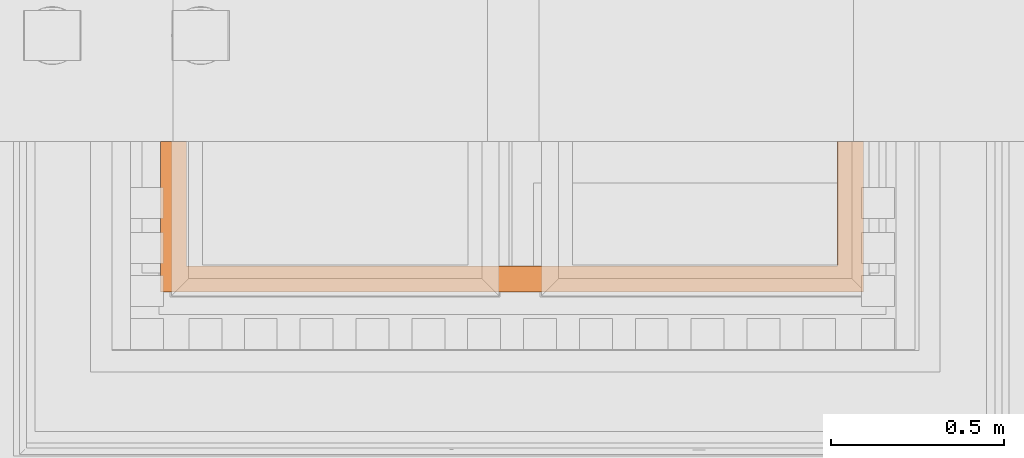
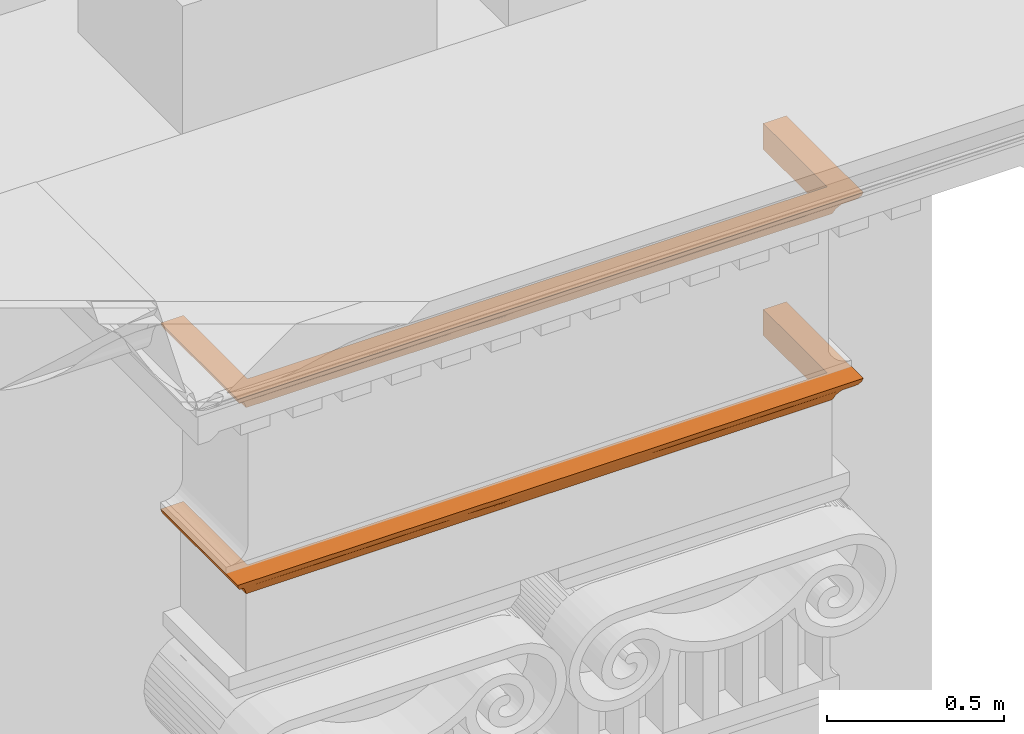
# One storey, part 42 of 44: 2 proxies.
"""IFC2X3 building model written with IfcOpenShell, lengths in metres."""

from ifc_helpers import new_model, entity, si_unit, converted_unit, derived_unit, direction, frame, origin, place, context, subcontext, project, spatial, faceted_brep, material, element, save


model = new_model("IFC2X3")

# Units and contexts
model_context = context("Model", 3, precision=1e-05, world=origin(), true_north=direction((6.12303176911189e-17, 1.0)))
body_context = subcontext(model_context, "Body", "Model", "MODEL_VIEW")
ifc_project = project(units=[si_unit("LENGTHUNIT", "METRE"), si_unit("AREAUNIT", "SQUARE_METRE"), si_unit("VOLUMEUNIT", "CUBIC_METRE"), converted_unit("PLANEANGLEUNIT", "DEGREE", entity("IfcRatioMeasure", 0.0174532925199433), si_unit("PLANEANGLEUNIT", "RADIAN"), dimensions=[0, 0, 0, 0, 0, 0, 0]), si_unit("MASSUNIT", "GRAM", prefix="KILO"), derived_unit("MASSDENSITYUNIT", [(si_unit("MASSUNIT", "GRAM", prefix="KILO"), 1), (si_unit("LENGTHUNIT", "METRE"), -3)]), si_unit("TIMEUNIT", "SECOND"), si_unit("FREQUENCYUNIT", "HERTZ"), si_unit("THERMODYNAMICTEMPERATUREUNIT", "DEGREE_CELSIUS"), derived_unit("THERMALTRANSMITTANCEUNIT", [(si_unit("MASSUNIT", "GRAM", prefix="KILO"), 1), (si_unit("THERMODYNAMICTEMPERATUREUNIT", "KELVIN"), -1), (si_unit("TIMEUNIT", "SECOND"), -3)]), derived_unit("VOLUMETRICFLOWRATEUNIT", [(si_unit("LENGTHUNIT", "METRE"), 3), (si_unit("TIMEUNIT", "SECOND"), -1)]), si_unit("ELECTRICCURRENTUNIT", "AMPERE"), si_unit("ELECTRICVOLTAGEUNIT", "VOLT"), si_unit("POWERUNIT", "WATT"), si_unit("FORCEUNIT", "NEWTON", prefix="KILO"), si_unit("ILLUMINANCEUNIT", "LUX"), si_unit("LUMINOUSFLUXUNIT", "LUMEN"), si_unit("LUMINOUSINTENSITYUNIT", "CANDELA"), derived_unit("USERDEFINED", [(si_unit("MASSUNIT", "GRAM", prefix="KILO"), -1), (si_unit("LENGTHUNIT", "METRE"), -2), (si_unit("TIMEUNIT", "SECOND"), 3), (si_unit("LUMINOUSFLUXUNIT", "LUMEN"), 1)]), derived_unit("LINEARVELOCITYUNIT", [(si_unit("LENGTHUNIT", "METRE"), 1), (si_unit("TIMEUNIT", "SECOND"), -1)]), si_unit("PRESSUREUNIT", "PASCAL"), derived_unit("USERDEFINED", [(si_unit("LENGTHUNIT", "METRE"), -2), (si_unit("MASSUNIT", "GRAM", prefix="KILO"), 1), (si_unit("TIMEUNIT", "SECOND"), -2)])], contexts=[model_context])

# Site, building, storey
site_placement = place(None, origin())
site = spatial("IfcSite", under=ifc_project, at=site_placement, Name="Default", CompositionType="ELEMENT")
building_placement = place(site_placement, origin())
building = spatial("IfcBuilding", under=site, at=building_placement, CompositionType="ELEMENT")
storey_placement = place(building_placement, origin())
storey = spatial("IfcBuildingStorey", under=building, at=storey_placement, Name="Livello 1", CompositionType="ELEMENT", Elevation=0.0)

# Proxies
ifc_material = material(Name="Piperno")
proxy_1_placement = place(storey_placement, frame((9.3996834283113, 0.826731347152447, 21.9731571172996)))
element("IfcBuildingElementProxy", 1, at=proxy_1_placement, inside=storey, material=ifc_material, Name="Stratigrafia", context=body_context, shape_type="Brep", body=[
    faceted_brep([(1.962612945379, 0.436641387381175, 0.0912885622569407), (2.037612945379, 0.436641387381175, 0.0912885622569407), (2.03387347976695, 0.436641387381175, 0.0791148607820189), (2.02722756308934, 0.436641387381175, 0.0682514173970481), (2.01809170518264, 0.436641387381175, 0.0593790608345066), (2.007038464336, 0.436641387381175, 0.0530538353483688), (1.99242845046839, 0.436641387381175, 0.038323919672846), (1.98112304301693, 0.436641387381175, 0.020928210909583), (1.97359573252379, 0.436641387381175, 0.0015952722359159), (1.962612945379, 0.436641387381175, 0.0015952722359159), (0.0467797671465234, 0.436641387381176, 0.038323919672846), (0.0321697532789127, 0.436641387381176, 0.0530538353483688), (0.0211165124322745, 0.436641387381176, 0.0593790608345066), (0.0119806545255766, 0.436641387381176, 0.0682514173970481), (0.00533473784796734, 0.436641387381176, 0.0791148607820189), (0.00159527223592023, 0.436641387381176, 0.0912885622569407), (0.0765952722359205, 0.436641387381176, 0.0912885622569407), (0.0765952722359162, 0.436641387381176, 0.0015952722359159), (0.0656124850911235, 0.436641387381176, 0.0015952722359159), (0.0580851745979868, 0.436641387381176, 0.020928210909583), (2.007038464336, 0.207952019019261, 0.0530538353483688), (2.00703846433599, 0.187600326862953, 0.0530538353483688), (2.007038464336, 0.032169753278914, 0.0530538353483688), (1.99242845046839, 0.0467797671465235, 0.038323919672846), (1.98112304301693, 0.0580851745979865, 0.020928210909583), (1.97359573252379, 0.0656124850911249, 0.0015952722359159), (1.62202667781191, 0.0656124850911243, 0.0015952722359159), (1.27046453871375, 0.0656124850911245, 0.0015952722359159), (1.0196006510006, 0.0656124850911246, 0.0015952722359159), (0.768736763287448, 0.0656124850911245, 0.0015952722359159), (0.417174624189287, 0.0656124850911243, 0.0015952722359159), (0.0656124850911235, 0.065612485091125, 0.0015952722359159), (0.0765952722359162, 0.0765952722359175, 0.0015952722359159), (1.96261294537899, 0.0765952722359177, 0.0015952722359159), (1.962612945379, 0.0765952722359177, 0.0912885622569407), (0.00159527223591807, 0.250636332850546, 0.0912885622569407), (0.00159527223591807, 0.00159527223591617, 0.0912885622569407), (0.250633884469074, 0.00159527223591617, 0.0912885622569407), (0.499675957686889, 0.00159527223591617, 0.0912885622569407), (0.759640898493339, 0.00159527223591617, 0.0912885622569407), (1.01960237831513, 0.00159527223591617, 0.0912885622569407), (1.27956731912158, 0.00159527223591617, 0.0912885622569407), (1.53953225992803, 0.00159527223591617, 0.0912885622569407), (1.78857087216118, 0.00159527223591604, 0.0912885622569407), (2.037612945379, 0.00159527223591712, 0.0912885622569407), (2.03761294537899, 0.250636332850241, 0.0912885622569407), (0.0765952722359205, 0.0765952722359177, 0.0912885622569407), (2.03387347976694, 0.00533473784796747, 0.0791148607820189), (2.03089181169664, 0.224311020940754, 0.0734743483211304), (2.0350515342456, 0.266552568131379, 0.0819540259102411), (2.01809170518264, 0.0211165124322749, 0.0593790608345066), (2.01517555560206, 0.262980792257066, 0.0573396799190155), (2.02293837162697, 0.232788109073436, 0.0635282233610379), (2.02722756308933, 0.0119806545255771, 0.0682514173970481), (0.0467797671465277, 0.0467797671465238, 0.038323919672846), (0.0580851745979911, 0.0580851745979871, 0.020928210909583), (0.367866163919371, 0.0521366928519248, 0.0310412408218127), (1.67134205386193, 0.0521366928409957, 0.031041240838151), (0.383732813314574, 0.0321697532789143, 0.0530538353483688), (1.65547540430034, 0.0321697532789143, 0.0530538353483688), (1.45159991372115, 0.0460051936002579, 0.0392723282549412), (0.592959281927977, 0.0590390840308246, 0.019018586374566), (1.17857156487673, 0.049325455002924, 0.0350321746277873), (1.33754250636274, 0.0321697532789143, 0.0530538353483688), (1.26864147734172, 0.0321697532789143, 0.0530538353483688), (1.02833349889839, 0.0321697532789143, 0.0530538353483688), (1.01960410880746, 0.0321697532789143, 0.0530538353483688), (0.860636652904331, 0.0522964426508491, 0.0308017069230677), (0.779291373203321, 0.0321697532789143, 0.0530538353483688), (0.701665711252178, 0.0321697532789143, 0.0530538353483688), (1.75799633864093, 0.0321697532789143, 0.0530538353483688), (0.281211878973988, 0.0321697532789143, 0.0530538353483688), (0.032169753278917, 0.0321697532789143, 0.0530538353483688), (0.604066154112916, 0.0469191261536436, 0.0381507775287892), (0.530254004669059, 0.0321697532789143, 0.0530538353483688), (1.42275632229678, 0.0580212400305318, 0.021052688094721), (1.14503538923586, 0.0596767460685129, 0.0176830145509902), (1.50895421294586, 0.0321697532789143, 0.0530538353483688), (0.546115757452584, 0.00416868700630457, 0.081922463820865), (0.375156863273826, 0.00622593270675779, 0.0772409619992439), (0.585577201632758, 0.00852306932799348, 0.0731394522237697), (1.85863883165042, 0.00817935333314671, 0.0736996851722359), (0.180569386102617, 0.00817935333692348, 0.0736996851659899), (0.19515450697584, 0.0146448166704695, 0.065179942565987), (0.391043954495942, 0.0157075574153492, 0.0640828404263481), (0.267640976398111, 0.0224796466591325, 0.0583878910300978), (1.77156724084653, 0.0224796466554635, 0.058387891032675), (0.00533473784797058, 0.00533473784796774, 0.0791148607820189), (0.0119806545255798, 0.0119806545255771, 0.0682514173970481), (1.59272306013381, 0.0227911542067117, 0.058170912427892), (1.66405135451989, 0.00622593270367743, 0.0772409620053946), (0.960630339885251, 0.00510136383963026, 0.0796404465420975), (1.24637643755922, 0.00976144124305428, 0.0712452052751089), (1.4095491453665, 0.00485209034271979, 0.0802202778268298), (1.1986408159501, 0.0044919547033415, 0.0810951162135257), (0.915845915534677, 0.0196818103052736, 0.0604998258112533), (0.809439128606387, 0.0097344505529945, 0.0712845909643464), (0.639048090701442, 0.016007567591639, 0.0637847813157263), (1.84405371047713, 0.0146448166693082, 0.0651799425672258), (1.47132453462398, 0.010690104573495, 0.0699361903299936), (1.43760442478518, 0.0189403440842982, 0.0611124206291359), (0.729067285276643, 0.00473336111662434, 0.0805036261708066), (0.173994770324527, 0.00391099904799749, 0.0826144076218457), (0.463092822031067, 0.023354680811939, 0.0577870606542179), (1.02783945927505, 0.0108170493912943, 0.0697638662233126), (1.21750503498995, 0.0210338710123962, 0.0594414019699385), (1.86521344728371, 0.00391099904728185, 0.0826144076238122), (1.64816426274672, 0.0157075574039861, 0.0640828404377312), (0.661373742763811, 0.0244211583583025, 0.0570902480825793), (0.0211165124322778, 0.021116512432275, 0.0593790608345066), (0.032169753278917, 0.187600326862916, 0.0530538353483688), (0.032169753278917, 0.207952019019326, 0.0530538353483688), (0.00831640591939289, 0.22431102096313, 0.0734743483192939), (0.00403364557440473, 0.180264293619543, 0.0822812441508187), (0.0236134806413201, 0.19090797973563, 0.0576144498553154), (0.0162698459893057, 0.232788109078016, 0.0635282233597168)], [[[0, 1, 2, 3, 4, 5, 6, 7, 8, 9]], [[10, 11, 12, 13, 14, 15, 16, 17, 18, 19]], [[6, 5, 20, 21, 22, 23]], [[23, 24, 7, 6]], [[25, 8, 7, 24]], [[9, 8, 25, 26, 27, 28, 29, 30, 31, 18, 17, 32, 33]], [[0, 9, 33, 34]], [[16, 15, 35, 36, 37, 38, 39, 40, 41, 42, 43, 44, 45, 1, 0, 34, 46]], [[47, 48, 49]], [[50, 51, 52]], [[49, 48, 2]], [[45, 44, 49, 1]], [[44, 47, 49]], [[52, 53, 50]], [[2, 48, 3]], [[51, 21, 20, 5]], [[3, 48, 52]], [[1, 49, 2]], [[21, 51, 50]], [[5, 4, 51]], [[50, 22, 21]], [[53, 52, 48]], [[52, 51, 4]], [[52, 4, 3]], [[47, 53, 48]], [[54, 55, 56]], [[26, 25, 24]], [[30, 55, 31]], [[57, 24, 23]], [[58, 54, 56]], [[23, 59, 57]], [[59, 60, 57]], [[61, 56, 30]], [[62, 63, 64, 65, 66]], [[67, 66, 68, 69]], [[67, 62, 66]], [[23, 22, 70, 59]], [[54, 58, 71, 72]], [[73, 69, 74, 58]], [[56, 55, 30]], [[57, 26, 24]], [[27, 26, 75]], [[27, 76, 28]], [[67, 73, 61]], [[30, 29, 61]], [[76, 27, 75]], [[57, 60, 75]], [[62, 67, 76]], [[28, 76, 67]], [[28, 67, 29]], [[62, 60, 63]], [[76, 75, 62]], [[57, 75, 26]], [[75, 60, 62]], [[60, 59, 77, 63]], [[56, 61, 73]], [[61, 29, 67]], [[56, 73, 58]], [[69, 73, 67]], [[34, 33, 32, 46]], [[78, 79, 80]], [[53, 47, 81]], [[82, 83, 84]], [[72, 71, 85]], [[86, 70, 22]], [[87, 88, 82]], [[70, 86, 89]], [[38, 37, 79]], [[42, 90, 43]], [[91, 40, 39]], [[92, 93, 94]], [[95, 96, 97]], [[86, 50, 98]], [[53, 81, 98]], [[93, 99, 90]], [[92, 100, 99]], [[101, 80, 96]], [[82, 102, 87]], [[85, 84, 83]], [[84, 79, 82]], [[36, 87, 102]], [[97, 80, 84]], [[103, 84, 85]], [[92, 104, 105]], [[81, 106, 90]], [[44, 43, 106]], [[36, 102, 37]], [[98, 81, 107]], [[99, 93, 92]], [[108, 74, 69, 68]], [[82, 88, 83]], [[71, 103, 85]], [[50, 86, 22]], [[102, 79, 37]], [[88, 109, 83]], [[109, 72, 85]], [[109, 85, 83]], [[103, 71, 58, 74]], [[97, 96, 80]], [[103, 97, 84]], [[94, 104, 92]], [[103, 108, 97]], [[95, 68, 66, 65]], [[95, 97, 108]], [[95, 65, 105]], [[100, 64, 63, 77]], [[99, 100, 107]], [[39, 101, 91]], [[84, 80, 79]], [[101, 96, 91]], [[80, 101, 78]], [[78, 39, 38]], [[104, 91, 96]], [[41, 94, 93]], [[41, 93, 42]], [[91, 94, 40]], [[90, 42, 93]], [[96, 95, 104]], [[105, 104, 95]], [[100, 92, 105]], [[90, 99, 107]], [[100, 105, 64]], [[107, 89, 86]], [[106, 81, 47]], [[107, 81, 90]], [[86, 98, 107]], [[50, 53, 98]], [[107, 100, 89]], [[39, 78, 101]], [[79, 78, 38]], [[79, 102, 82]], [[44, 106, 47]], [[90, 106, 43]], [[100, 77, 89]], [[89, 77, 59, 70]], [[40, 94, 41]], [[104, 94, 91]], [[74, 108, 103]], [[95, 108, 68]], [[105, 65, 64]], [[54, 72, 110, 111, 11, 10]], [[10, 19, 55, 54]], [[19, 18, 31, 55]], [[46, 32, 17, 16]], [[14, 112, 113]], [[12, 114, 115]], [[35, 15, 14]], [[36, 35, 113]], [[13, 12, 115]], [[14, 13, 112]], [[112, 87, 113]], [[72, 114, 11, 111, 110]], [[114, 72, 109]], [[112, 13, 115]], [[36, 113, 87]], [[114, 12, 11]], [[88, 112, 115]], [[88, 115, 109]], [[109, 115, 114]], [[14, 113, 35]], [[87, 112, 88]]]),
])
proxy_2_placement = place(storey_placement, frame((9.3996834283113, 0.826731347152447, 22.6131571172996)))
element("IfcBuildingElementProxy", 2, at=proxy_2_placement, inside=storey, material=ifc_material, Name="Stratigrafia", context=body_context, shape_type="Brep", body=[
    faceted_brep([(1.962612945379, 0.436641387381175, 0.0912885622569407), (2.037612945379, 0.436641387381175, 0.0912885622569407), (2.03387347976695, 0.436641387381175, 0.0791148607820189), (2.02722756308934, 0.436641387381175, 0.0682514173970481), (2.01809170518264, 0.436641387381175, 0.0593790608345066), (2.007038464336, 0.436641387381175, 0.0530538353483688), (1.99242845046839, 0.436641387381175, 0.038323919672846), (1.98112304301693, 0.436641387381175, 0.020928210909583), (1.97359573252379, 0.436641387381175, 0.0015952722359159), (1.962612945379, 0.436641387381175, 0.0015952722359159), (0.0467797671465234, 0.436641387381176, 0.038323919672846), (0.0321697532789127, 0.436641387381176, 0.0530538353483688), (0.0211165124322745, 0.436641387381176, 0.0593790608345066), (0.0119806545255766, 0.436641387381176, 0.0682514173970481), (0.00533473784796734, 0.436641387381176, 0.0791148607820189), (0.00159527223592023, 0.436641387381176, 0.0912885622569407), (0.0765952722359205, 0.436641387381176, 0.0912885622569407), (0.0765952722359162, 0.436641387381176, 0.0015952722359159), (0.0656124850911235, 0.436641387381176, 0.0015952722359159), (0.0580851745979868, 0.436641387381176, 0.020928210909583), (2.007038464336, 0.207952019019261, 0.0530538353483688), (2.007038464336, 0.187600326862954, 0.0530538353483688), (2.007038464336, 0.0321697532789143, 0.0530538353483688), (1.99242845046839, 0.0467797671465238, 0.038323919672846), (1.98112304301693, 0.0580851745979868, 0.020928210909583), (1.97359573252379, 0.0656124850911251, 0.0015952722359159), (1.62202667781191, 0.0656124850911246, 0.0015952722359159), (1.27046453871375, 0.0656124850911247, 0.0015952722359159), (1.0196006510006, 0.0656124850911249, 0.0015952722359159), (0.768736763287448, 0.0656124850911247, 0.0015952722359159), (0.417174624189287, 0.0656124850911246, 0.0015952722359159), (0.0656124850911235, 0.0656124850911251, 0.0015952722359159), (0.0765952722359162, 0.0765952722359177, 0.0015952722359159), (1.96261294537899, 0.0765952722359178, 0.0015952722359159), (1.962612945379, 0.0765952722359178, 0.0912885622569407), (0.00159527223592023, 0.250636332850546, 0.0912885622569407), (0.00159527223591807, 0.00159527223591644, 0.0912885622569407), (0.250633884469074, 0.00159527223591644, 0.091288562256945), (0.499675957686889, 0.00159527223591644, 0.0912885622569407), (0.759640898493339, 0.00159527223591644, 0.0912885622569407), (1.01960237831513, 0.00159527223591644, 0.0912885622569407), (1.27956731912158, 0.00159527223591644, 0.0912885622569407), (1.53953225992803, 0.00159527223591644, 0.0912885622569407), (1.78857087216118, 0.00159527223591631, 0.0912885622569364), (2.037612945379, 0.00159527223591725, 0.0912885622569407), (2.03761294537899, 0.250636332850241, 0.0912885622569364), (0.0765952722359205, 0.0765952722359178, 0.0912885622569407), (2.03387347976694, 0.00533473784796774, 0.0791148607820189), (2.03089181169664, 0.224311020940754, 0.0734743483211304), (2.0350515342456, 0.266552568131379, 0.0819540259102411), (2.01809170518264, 0.0211165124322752, 0.0593790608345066), (2.01517555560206, 0.262980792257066, 0.0573396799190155), (2.02293837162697, 0.232788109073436, 0.0635282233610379), (2.02722756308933, 0.0119806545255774, 0.0682514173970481), (0.0467797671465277, 0.0467797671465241, 0.038323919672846), (0.0580851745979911, 0.0580851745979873, 0.020928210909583), (0.367866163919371, 0.052136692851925, 0.0310412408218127), (1.67134205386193, 0.0521366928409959, 0.031041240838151), (0.383732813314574, 0.0321697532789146, 0.0530538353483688), (1.65547540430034, 0.0321697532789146, 0.0530538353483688), (1.45159991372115, 0.0460051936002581, 0.0392723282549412), (0.592959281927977, 0.0590390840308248, 0.019018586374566), (1.17857156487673, 0.0493254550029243, 0.0350321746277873), (1.33754250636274, 0.0321697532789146, 0.0530538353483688), (1.26864147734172, 0.0321697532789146, 0.0530538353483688), (1.02833349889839, 0.0321697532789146, 0.0530538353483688), (1.01960410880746, 0.0321697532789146, 0.0530538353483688), (0.860636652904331, 0.0522964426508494, 0.0308017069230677), (0.779291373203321, 0.0321697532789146, 0.0530538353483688), (0.701665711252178, 0.0321697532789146, 0.0530538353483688), (1.75799633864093, 0.0321697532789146, 0.0530538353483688), (0.281211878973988, 0.0321697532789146, 0.0530538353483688), (0.032169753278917, 0.0321697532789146, 0.0530538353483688), (0.604066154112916, 0.0469191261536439, 0.0381507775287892), (0.530254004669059, 0.0321697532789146, 0.0530538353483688), (1.42275632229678, 0.058021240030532, 0.021052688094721), (1.14503538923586, 0.0596767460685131, 0.0176830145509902), (1.50895421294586, 0.0321697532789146, 0.0530538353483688), (0.546115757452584, 0.00416868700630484, 0.081922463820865), (0.375156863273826, 0.00622593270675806, 0.0772409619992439), (0.585577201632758, 0.00852306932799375, 0.0731394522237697), (1.85863883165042, 0.00817935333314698, 0.0736996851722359), (0.180569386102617, 0.00817935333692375, 0.0736996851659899), (0.19515450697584, 0.0146448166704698, 0.065179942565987), (0.391043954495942, 0.0157075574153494, 0.0640828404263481), (0.267640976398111, 0.0224796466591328, 0.0583878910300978), (1.77156724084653, 0.0224796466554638, 0.058387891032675), (0.00533473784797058, 0.00533473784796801, 0.0791148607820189), (0.0119806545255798, 0.0119806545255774, 0.0682514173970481), (1.59272306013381, 0.0227911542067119, 0.058170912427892), (1.66405135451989, 0.00622593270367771, 0.0772409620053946), (0.960630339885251, 0.00510136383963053, 0.0796404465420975), (1.24637643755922, 0.00976144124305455, 0.0712452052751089), (1.4095491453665, 0.00485209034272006, 0.0802202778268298), (1.1986408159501, 0.00449195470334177, 0.0810951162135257), (0.915845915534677, 0.0196818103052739, 0.0604998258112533), (0.809439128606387, 0.00973445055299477, 0.0712845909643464), (0.639048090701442, 0.0160075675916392, 0.0637847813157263), (1.84405371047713, 0.0146448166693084, 0.0651799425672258), (1.47132453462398, 0.0106901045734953, 0.0699361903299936), (1.43760442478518, 0.0189403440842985, 0.0611124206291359), (0.729067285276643, 0.00473336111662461, 0.0805036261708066), (0.173994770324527, 0.00391099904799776, 0.0826144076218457), (0.463092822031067, 0.0233546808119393, 0.0577870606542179), (1.02783945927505, 0.0108170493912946, 0.0697638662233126), (1.21750503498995, 0.0210338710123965, 0.0594414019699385), (1.86521344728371, 0.00391099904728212, 0.0826144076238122), (1.64816426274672, 0.0157075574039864, 0.0640828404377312), (0.661373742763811, 0.0244211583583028, 0.0570902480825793), (0.0211165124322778, 0.0211165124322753, 0.0593790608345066), (0.032169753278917, 0.187600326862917, 0.0530538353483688), (0.032169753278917, 0.207952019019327, 0.0530538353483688), (0.00831640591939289, 0.224311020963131, 0.0734743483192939), (0.00403364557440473, 0.180264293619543, 0.0822812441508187), (0.0236134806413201, 0.19090797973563, 0.0576144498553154), (0.0162698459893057, 0.232788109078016, 0.0635282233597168)], [[[0, 1, 2, 3, 4, 5, 6, 7, 8, 9]], [[10, 11, 12, 13, 14, 15, 16, 17, 18, 19]], [[6, 5, 20, 21, 22, 23]], [[23, 24, 7, 6]], [[25, 8, 7, 24]], [[9, 8, 25, 26, 27, 28, 29, 30, 31, 18, 17, 32, 33]], [[0, 9, 33, 34]], [[16, 15, 35, 36, 37, 38, 39, 40, 41, 42, 43, 44, 45, 1, 0, 34, 46]], [[47, 48, 49]], [[50, 51, 52]], [[49, 48, 2]], [[45, 44, 49, 1]], [[44, 47, 49]], [[52, 53, 50]], [[2, 48, 3]], [[51, 21, 20, 5]], [[3, 48, 52]], [[1, 49, 2]], [[21, 51, 50]], [[5, 4, 51]], [[50, 22, 21]], [[53, 52, 48]], [[52, 51, 4]], [[52, 4, 3]], [[47, 53, 48]], [[54, 55, 56]], [[26, 25, 24]], [[30, 55, 31]], [[57, 24, 23]], [[58, 54, 56]], [[23, 59, 57]], [[59, 60, 57]], [[61, 56, 30]], [[62, 63, 64, 65, 66]], [[67, 66, 68, 69]], [[67, 62, 66]], [[23, 22, 70, 59]], [[54, 58, 71, 72]], [[73, 69, 74, 58]], [[56, 55, 30]], [[57, 26, 24]], [[27, 26, 75]], [[27, 76, 28]], [[67, 73, 61]], [[30, 29, 61]], [[76, 27, 75]], [[57, 60, 75]], [[62, 67, 76]], [[28, 76, 67]], [[28, 67, 29]], [[62, 60, 63]], [[76, 75, 62]], [[57, 75, 26]], [[75, 60, 62]], [[60, 59, 77, 63]], [[56, 61, 73]], [[61, 29, 67]], [[56, 73, 58]], [[69, 73, 67]], [[34, 33, 32, 46]], [[78, 79, 80]], [[53, 47, 81]], [[82, 83, 84]], [[72, 71, 85]], [[86, 70, 22]], [[87, 88, 82]], [[70, 86, 89]], [[38, 37, 79]], [[42, 90, 43]], [[91, 40, 39]], [[92, 93, 94]], [[95, 96, 97]], [[86, 50, 98]], [[53, 81, 98]], [[93, 99, 90]], [[92, 100, 99]], [[101, 80, 96]], [[82, 102, 87]], [[85, 84, 83]], [[84, 79, 82]], [[36, 87, 102]], [[97, 80, 84]], [[103, 84, 85]], [[92, 104, 105]], [[81, 106, 90]], [[44, 43, 106]], [[36, 102, 37]], [[98, 81, 107]], [[99, 93, 92]], [[108, 74, 69, 68]], [[82, 88, 83]], [[71, 103, 85]], [[50, 86, 22]], [[102, 79, 37]], [[88, 109, 83]], [[109, 72, 85]], [[109, 85, 83]], [[103, 71, 58, 74]], [[97, 96, 80]], [[103, 97, 84]], [[94, 104, 92]], [[103, 108, 97]], [[95, 68, 66, 65]], [[95, 97, 108]], [[95, 65, 105]], [[100, 64, 63, 77]], [[99, 100, 107]], [[39, 101, 91]], [[84, 80, 79]], [[101, 96, 91]], [[80, 101, 78]], [[78, 39, 38]], [[104, 91, 96]], [[41, 94, 93]], [[41, 93, 42]], [[91, 94, 40]], [[90, 42, 93]], [[96, 95, 104]], [[105, 104, 95]], [[100, 92, 105]], [[90, 99, 107]], [[100, 105, 64]], [[107, 89, 86]], [[106, 81, 47]], [[107, 81, 90]], [[86, 98, 107]], [[50, 53, 98]], [[107, 100, 89]], [[39, 78, 101]], [[79, 78, 38]], [[79, 102, 82]], [[44, 106, 47]], [[90, 106, 43]], [[100, 77, 89]], [[89, 77, 59, 70]], [[40, 94, 41]], [[104, 94, 91]], [[74, 108, 103]], [[95, 108, 68]], [[105, 65, 64]], [[54, 72, 110, 111, 11, 10]], [[10, 19, 55, 54]], [[19, 18, 31, 55]], [[46, 32, 17, 16]], [[14, 112, 113]], [[12, 114, 115]], [[35, 15, 14]], [[36, 35, 113]], [[13, 12, 115]], [[14, 13, 112]], [[112, 87, 113]], [[72, 114, 11, 111, 110]], [[114, 72, 109]], [[112, 13, 115]], [[36, 113, 87]], [[114, 12, 11]], [[88, 112, 115]], [[88, 115, 109]], [[109, 115, 114]], [[14, 113, 35]], [[87, 112, 88]]]),
])

save(model, "model.ifc")
